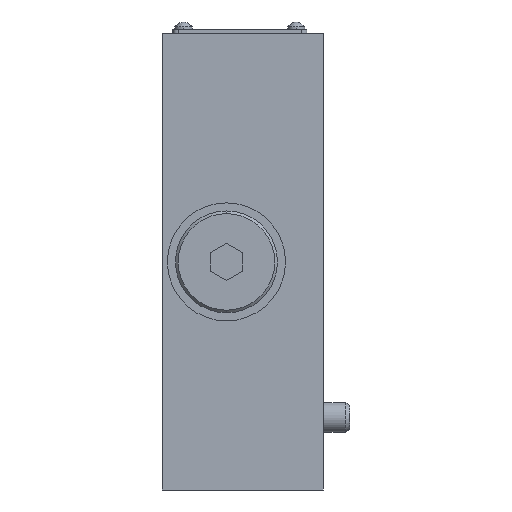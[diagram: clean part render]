
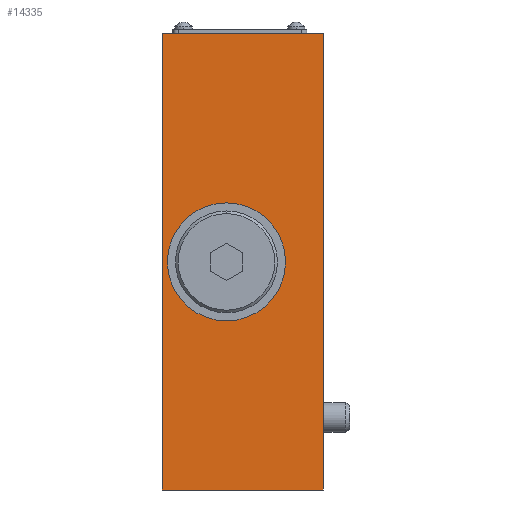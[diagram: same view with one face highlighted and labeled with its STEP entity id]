
A CAD part, left-side view. The second image highlights one B-rep face of the part: STEP entity #14335.
In plain terms, the highlighted planar face has unit normal (-1, 0, 0).
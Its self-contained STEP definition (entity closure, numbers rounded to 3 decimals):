
#145 = CARTESIAN_POINT ( 'NONE',  ( -42.5, 30., -42.5 ) ) ;
#435 = LINE ( 'NONE', #11759, #4197 ) ;
#581 = ORIENTED_EDGE ( 'NONE', *, *, #8453, .T. ) ;
#1146 = AXIS2_PLACEMENT_3D ( 'NONE', #7717, #8838, #14262 ) ;
#1332 = LINE ( 'NONE', #10457, #1439 ) ;
#1419 = EDGE_CURVE ( 'NONE', #7660, #7115, #1332, .T. ) ;
#1439 = VECTOR ( 'NONE', #7156, 1000. ) ;
#2180 = AXIS2_PLACEMENT_3D ( 'NONE', #4777, #6009, #3734 ) ;
#2989 = DIRECTION ( 'NONE',  ( 0., 1., 0. ) ) ;
#3734 = DIRECTION ( 'NONE',  ( 0., 0., 1. ) ) ;
#3830 = DIRECTION ( 'NONE',  ( 0., 0., 1. ) ) ;
#4197 = VECTOR ( 'NONE', #8247, 1000. ) ;
#4354 = FACE_OUTER_BOUND ( 'NONE', #9637, .T. ) ;
#4703 = VERTEX_POINT ( 'NONE', #12681 ) ;
#4777 = CARTESIAN_POINT ( 'NONE',  ( -42.5, 18., 0. ) ) ;
#5093 = DIRECTION ( 'NONE',  ( 0., -1., 0. ) ) ;
#5240 = ORIENTED_EDGE ( 'NONE', *, *, #8094, .T. ) ;
#5644 = VERTEX_POINT ( 'NONE', #13141 ) ;
#5649 = EDGE_CURVE ( 'NONE', #5644, #7115, #11084, .T. ) ;
#5672 = CARTESIAN_POINT ( 'NONE',  ( -42.5, 18., 11. ) ) ;
#5961 = DIRECTION ( 'NONE',  ( 1., 0., 0. ) ) ;
#6009 = DIRECTION ( 'NONE',  ( 1., 0., 0. ) ) ;
#6729 = VERTEX_POINT ( 'NONE', #11616 ) ;
#6735 = ORIENTED_EDGE ( 'NONE', *, *, #12866, .F. ) ;
#7115 = VERTEX_POINT ( 'NONE', #145 ) ;
#7156 = DIRECTION ( 'NONE',  ( 0., 0., -1. ) ) ;
#7660 = VERTEX_POINT ( 'NONE', #13552 ) ;
#7717 = CARTESIAN_POINT ( 'NONE',  ( -42.5, 0., -42.5 ) ) ;
#7896 = EDGE_CURVE ( 'NONE', #7660, #6729, #10889, .T. ) ;
#8094 = EDGE_CURVE ( 'NONE', #9634, #4703, #13634, .T. ) ;
#8247 = DIRECTION ( 'NONE',  ( 0., 0., -1. ) ) ;
#8453 = EDGE_CURVE ( 'NONE', #4703, #9634, #13223, .T. ) ;
#8838 = DIRECTION ( 'NONE',  ( -1., 0., 0. ) ) ;
#8952 = ORIENTED_EDGE ( 'NONE', *, *, #1419, .T. ) ;
#9634 = VERTEX_POINT ( 'NONE', #5672 ) ;
#9637 = EDGE_LOOP ( 'NONE', ( #6735, #10932, #8952, #10397 ) ) ;
#9782 = PLANE ( 'NONE',  #1146 ) ;
#9921 = CARTESIAN_POINT ( 'NONE',  ( -42.5, 0., -42.5 ) ) ;
#10010 = EDGE_LOOP ( 'NONE', ( #5240, #581 ) ) ;
#10301 = CARTESIAN_POINT ( 'NONE',  ( -42.5, 18., 0. ) ) ;
#10397 = ORIENTED_EDGE ( 'NONE', *, *, #5649, .F. ) ;
#10457 = CARTESIAN_POINT ( 'NONE',  ( -42.5, 30., -42.5 ) ) ;
#10807 = FACE_BOUND ( 'NONE', #10010, .T. ) ;
#10889 = LINE ( 'NONE', #14132, #11731 ) ;
#10932 = ORIENTED_EDGE ( 'NONE', *, *, #7896, .F. ) ;
#11084 = LINE ( 'NONE', #9921, #12379 ) ;
#11616 = CARTESIAN_POINT ( 'NONE',  ( -42.5, 0., 42.5 ) ) ;
#11731 = VECTOR ( 'NONE', #5093, 1000. ) ;
#11745 = AXIS2_PLACEMENT_3D ( 'NONE', #10301, #5961, #3830 ) ;
#11759 = CARTESIAN_POINT ( 'NONE',  ( -42.5, 0., 0. ) ) ;
#12379 = VECTOR ( 'NONE', #2989, 1000. ) ;
#12681 = CARTESIAN_POINT ( 'NONE',  ( -42.5, 18., -11. ) ) ;
#12866 = EDGE_CURVE ( 'NONE', #6729, #5644, #435, .T. ) ;
#13141 = CARTESIAN_POINT ( 'NONE',  ( -42.5, 0., -42.5 ) ) ;
#13223 = CIRCLE ( 'NONE', #2180, 11. ) ;
#13552 = CARTESIAN_POINT ( 'NONE',  ( -42.5, 30., 42.5 ) ) ;
#13634 = CIRCLE ( 'NONE', #11745, 11. ) ;
#14132 = CARTESIAN_POINT ( 'NONE',  ( -42.5, 0., 42.5 ) ) ;
#14262 = DIRECTION ( 'NONE',  ( 0., 0., 1. ) ) ;
#14335 = ADVANCED_FACE ( 'NONE', ( #10807, #4354 ), #9782, .T. ) ;
